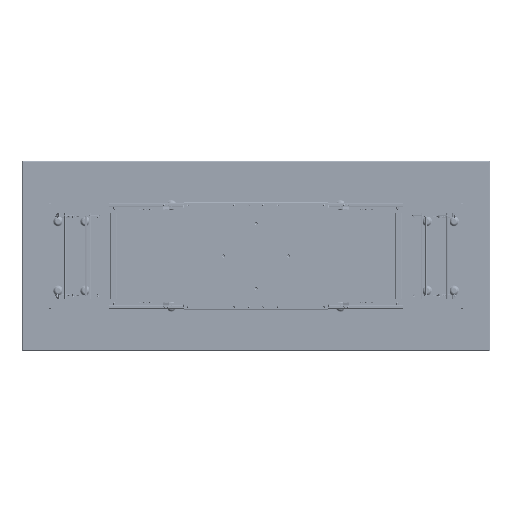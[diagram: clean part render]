
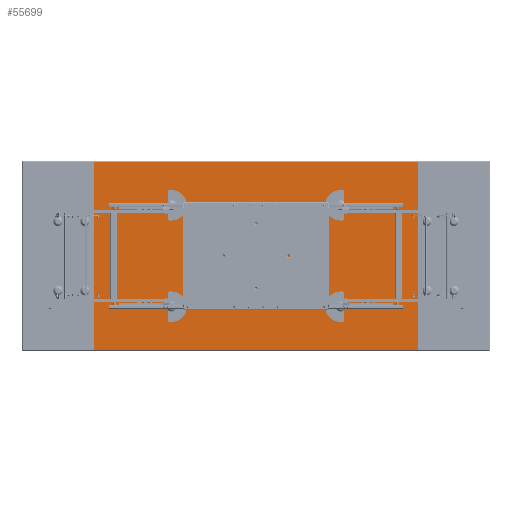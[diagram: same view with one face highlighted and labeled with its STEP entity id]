
A CAD part, front view. The second image highlights one B-rep face of the part: STEP entity #55699.
In plain terms, the highlighted planar face has unit normal (0, -1, 0).
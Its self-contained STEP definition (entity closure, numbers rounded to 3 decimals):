
#1243 = DIRECTION ( 'NONE',  ( -1., 0., 0. ) ) ;
#3177 = VECTOR ( 'NONE', #1243, 1000. ) ;
#4420 = DIRECTION ( 'NONE',  ( 1., 0., 0. ) ) ;
#6076 = VERTEX_POINT ( 'NONE', #16795 ) ;
#6312 = LINE ( 'NONE', #45472, #3177 ) ;
#6691 = DIRECTION ( 'NONE',  ( 0., 0., -1. ) ) ;
#7030 = EDGE_CURVE ( 'NONE', #18300, #25800, #54360, .T. ) ;
#9831 = LINE ( 'NONE', #70137, #69564 ) ;
#11762 = LINE ( 'NONE', #45141, #46976 ) ;
#16076 = CARTESIAN_POINT ( 'NONE',  ( 0., 0., 0. ) ) ;
#16267 = DIRECTION ( 'NONE',  ( 0., 0., -1. ) ) ;
#16795 = CARTESIAN_POINT ( 'NONE',  ( -900., 0., -524. ) ) ;
#18206 = EDGE_LOOP ( 'NONE', ( #70896, #66282, #30614, #71335 ) ) ;
#18300 = VERTEX_POINT ( 'NONE', #63525 ) ;
#18783 = EDGE_CURVE ( 'NONE', #6076, #25800, #9831, .T. ) ;
#19015 = EDGE_CURVE ( 'NONE', #18300, #56627, #6312, .T. ) ;
#25800 = VERTEX_POINT ( 'NONE', #37240 ) ;
#26974 = PLANE ( 'NONE',  #41807 ) ;
#30614 = ORIENTED_EDGE ( 'NONE', *, *, #7030, .F. ) ;
#33472 = DIRECTION ( 'NONE',  ( 0., 1., 0. ) ) ;
#37240 = CARTESIAN_POINT ( 'NONE',  ( 900., 0., -524. ) ) ;
#39128 = CARTESIAN_POINT ( 'NONE',  ( 900., 0., 530. ) ) ;
#41807 = AXIS2_PLACEMENT_3D ( 'NONE', #16076, #33472, #66878 ) ;
#45141 = CARTESIAN_POINT ( 'NONE',  ( -900., 0., 530. ) ) ;
#45472 = CARTESIAN_POINT ( 'NONE',  ( -900., 0., 524. ) ) ;
#46976 = VECTOR ( 'NONE', #6691, 1000. ) ;
#47989 = EDGE_CURVE ( 'NONE', #56627, #6076, #11762, .T. ) ;
#54360 = LINE ( 'NONE', #39128, #64570 ) ;
#55000 = CARTESIAN_POINT ( 'NONE',  ( -900., 0., 524. ) ) ;
#55699 = ADVANCED_FACE ( 'NONE', ( #61065 ), #26974, .F. ) ;
#56627 = VERTEX_POINT ( 'NONE', #55000 ) ;
#61065 = FACE_OUTER_BOUND ( 'NONE', #18206, .T. ) ;
#63525 = CARTESIAN_POINT ( 'NONE',  ( 900., 0., 524. ) ) ;
#64570 = VECTOR ( 'NONE', #16267, 1000. ) ;
#66282 = ORIENTED_EDGE ( 'NONE', *, *, #18783, .T. ) ;
#66878 = DIRECTION ( 'NONE',  ( 0., 0., 1. ) ) ;
#69564 = VECTOR ( 'NONE', #4420, 1000. ) ;
#70137 = CARTESIAN_POINT ( 'NONE',  ( 0., 0., -524. ) ) ;
#70896 = ORIENTED_EDGE ( 'NONE', *, *, #47989, .T. ) ;
#71335 = ORIENTED_EDGE ( 'NONE', *, *, #19015, .T. ) ;
